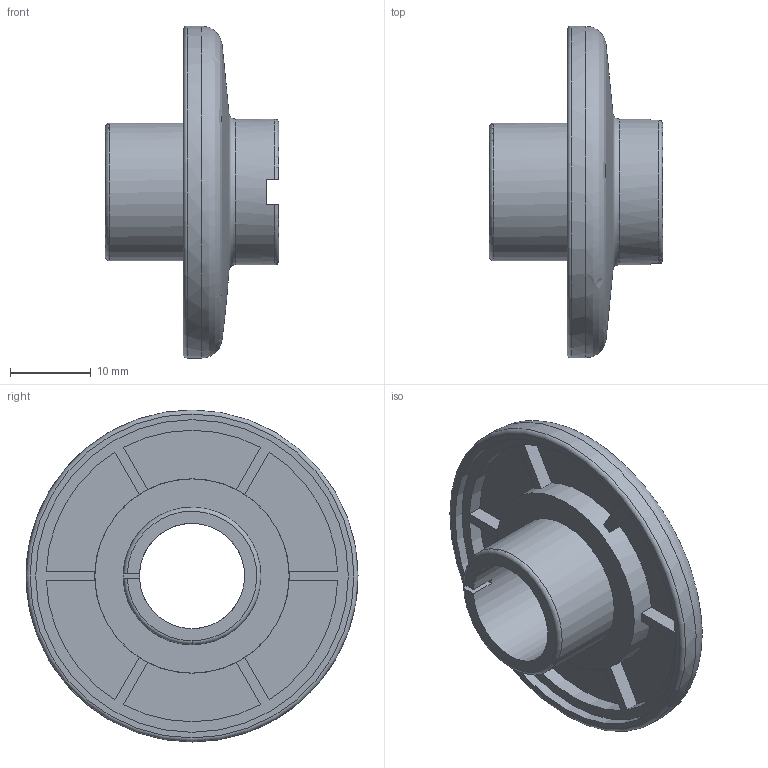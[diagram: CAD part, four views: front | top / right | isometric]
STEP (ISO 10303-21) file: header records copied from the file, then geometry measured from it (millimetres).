
FILE_DESCRIPTION(('Open CASCADE Model'),'2;1');
FILE_NAME('Open CASCADE Shape Model','2026-11-01T16:32:10',('Author'),( 'Open CASCADE'),'Open CASCADE STEP processor 8.0','build123d', 'Unknown');
FILE_SCHEMA(('AUTOMOTIVE_DESIGN { 1 0 10303 214 1 1 1 1 }'));
Length unit declared in the file: millimetre
Products named in the file (2): =>[0:1:1:2]; SOLID
Assembly tree (1 placements, depth 2):
  =>[0:1:1:2]
    SOLID
Bounding box: 21.4 x 41 x 41 mm (x, y, z)
Volume: 5828.7 mm3; surface area: 5208.6 mm2
Topology: 1 solids, 1 shells, 53 faces, 144 edges, 94 vertices
Faces by surface type: plane 33, cylinder 12, torus 5, bspline 2, sphere 1
Full cylindrical faces by diameter (mm): 13 x1, 17 x1, 18 x1, 24 x1, 38.6 x1, 41 x1
Entity records: 4018 total; most frequent: CARTESIAN_POINT 1364, DIRECTION 430, ORIENTED_EDGE 288, PCURVE 288, DEFINITIONAL_REPRESENTATION 288, LINE 186, VECTOR 186, EDGE_CURVE 144
